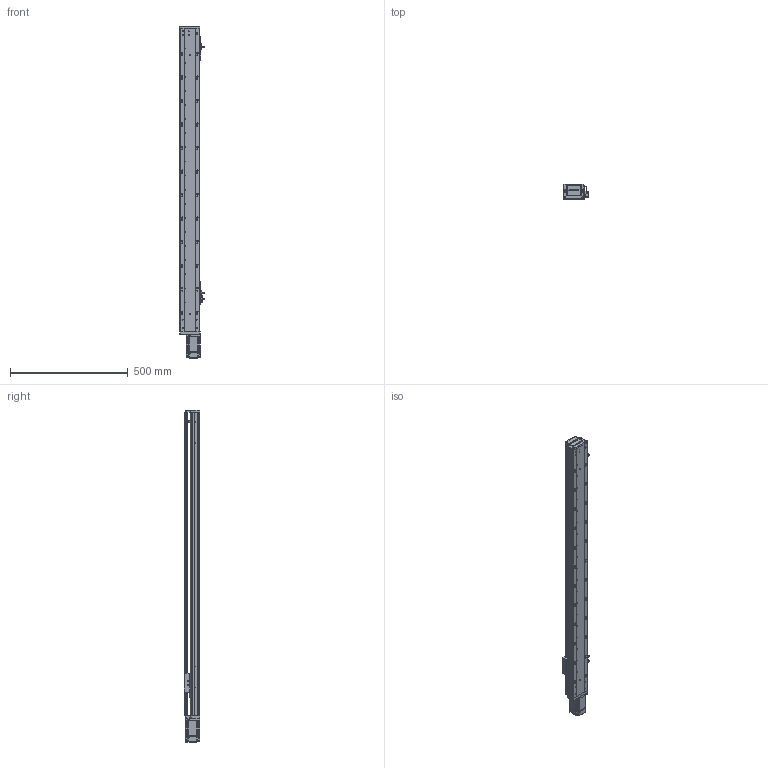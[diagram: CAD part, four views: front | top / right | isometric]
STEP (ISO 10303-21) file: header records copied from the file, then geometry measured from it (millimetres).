
FILE_DESCRIPTION (( 'STEP AP203' ), '1' );
FILE_NAME ('RY80-L1620-800-MK.SLDASM_1050.step', '2021-02-20T03:10:28', ( '' ), ( '' ), 'SwSTEP 2.0', 'SolidWorks 2012', '' );
FILE_SCHEMA (( 'CONFIG_CONTROL_DESIGN' ));
Products named in the file (13): 滅袉蝶18-24; RY80俋离覜茼え; 覜茼ん672; RY80綴裔啣; 滅袉蝶18-10; 672嫖萇羲壽假蚾釱; 侂狟200W萇儂; RY80-800-MK倰第奻裔啣_1050; 1; RY80前盖板(200W电机); RY80臏賑輸; RY80-800-MK倰第菁釱_1050; RY80-L1620-800-MK.SLDASM_1050
Assembly tree (15 placements, depth 3):
  RY80-L1620-800-MK.SLDASM_1050
    RY80-800-MK倰第菁釱_1050
    RY80臏賑輸
    RY80-800-MK倰第奻裔啣_1050
    RY80前盖板(200W电机)
    侂狟200W萇儂
      1
    滅袉蝶18-10
    672嫖萇羲壽假蚾釱  x2
    覜茼ん672  x3
    RY80俋离覜茼え
    滅袉蝶18-24
    RY80綴裔啣
Bounding box: 103.7 x 65 x 1412 mm (x, y, z)
Volume: 2196512.2 mm3; surface area: 874087.5 mm2
Topology: 14 solids, 14 shells, 2183 faces, 6104 edges, 3985 vertices
Faces by surface type: plane 1140, cylinder 877, cone 114, bspline 52
Entity records: 71253 total; most frequent: CARTESIAN_POINT 19332, ORIENTED_EDGE 10956, DIRECTION 9914, EDGE_CURVE 5478, VERTEX_POINT 3601, AXIS2_PLACEMENT_3D 3367, LINE 3180, VECTOR 3180
